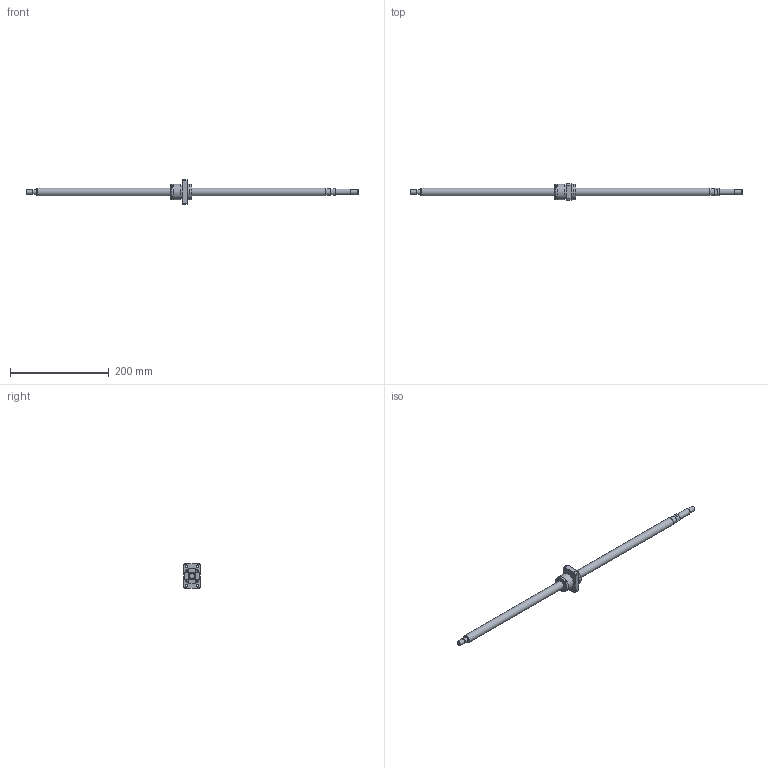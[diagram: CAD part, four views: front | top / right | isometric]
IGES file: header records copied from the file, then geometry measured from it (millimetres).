
Start section: Data from Parasolid IGES Translator 26.0.171, Copyright(c) 2006 Siemens PLM Software. All Rights Reserved.
Global section: file name: BNK1616-3.6G0+671LC5Y(3130).igs; native system: By Siemens PLM Incorporated; preprocessor: XPlus GENERIC/IGES 26.0.171; author: Noname; organization: Noname; date: 20240709.093049; units: millimetre
Bounding box: 671 x 34 x 50 mm (x, y, z)
Surface area: 44343.7 mm2 (no closed solid volume)
Topology: 0 solids, 0 shells, 139 faces, 647 edges, 589 vertices
Faces by surface type: extrusion 75, revolution 64
